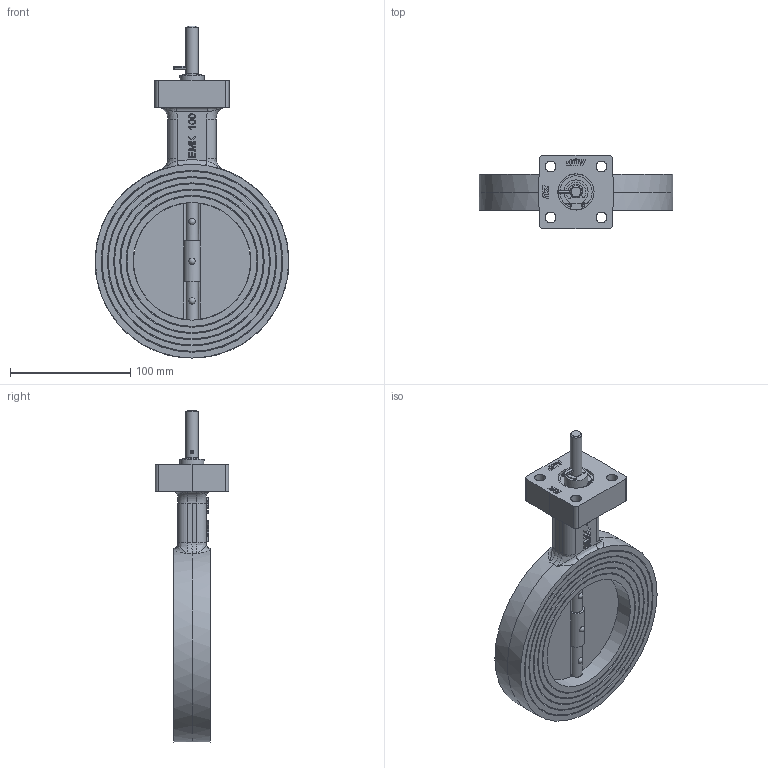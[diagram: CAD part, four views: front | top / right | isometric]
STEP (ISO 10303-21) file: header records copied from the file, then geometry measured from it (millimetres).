
FILE_DESCRIPTION((''),'2;1');
FILE_NAME('G:\CAD-Download\MRK\MRK Ro We\DN 100\MRK Ro We 100-4.00.32.stp','2010-08-23T09:01:57',('da'),(''),'Autodesk Inventor 2008','Autodesk Inventor 2008','');
FILE_SCHEMA(('AUTOMOTIVE_DESIGN { 1 0 10303 214 1 1 1 1 }'));
Length unit declared in the file: millimetre
Products named in the file (1): Bauteil2
Bounding box: 161.45 x 61 x 276.54 mm (x, y, z)
Volume: 534738.1 mm3; surface area: 96946.2 mm2
Topology: 1 solids, 1 shells, 367 faces, 948 edges, 602 vertices
Faces by surface type: plane 185, cylinder 77, bspline 77, cone 18, sphere 6, torus 4
Full cylindrical faces by diameter (mm): 2 x2, 3 x4, 8 x2, 10 x2, 20 x1, 29.9 x1, 31.4 x1, 97.5 x1, 98 x1
Entity records: 13763 total; most frequent: CARTESIAN_POINT 5348, ORIENTED_EDGE 1734, DIRECTION 1562, EDGE_CURVE 867, VERTEX_POINT 575, AXIS2_PLACEMENT_3D 542, VECTOR 478, LINE 478
